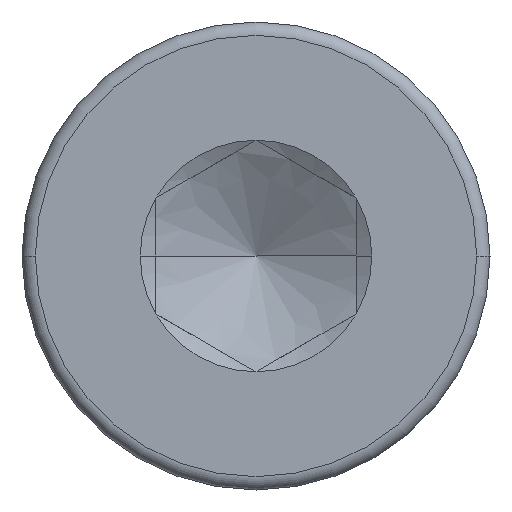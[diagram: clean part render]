
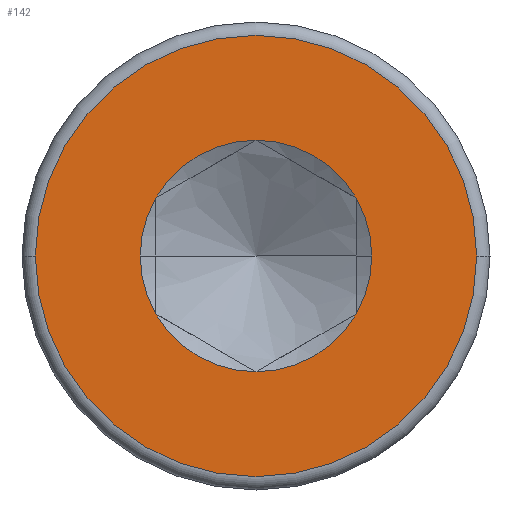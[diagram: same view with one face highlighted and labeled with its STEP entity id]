
A CAD part, left-side view. The second image highlights one B-rep face of the part: STEP entity #142.
In plain terms, the highlighted planar face has unit normal (-1, 0, 0).
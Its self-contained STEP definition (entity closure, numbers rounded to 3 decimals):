
#63=FACE_BOUND('',#214,.F.);
#74=PLANE('',#898);
#142=ADVANCED_FACE('',(#63,#177),#74,.T.);
#177=FACE_OUTER_BOUND('',#215,.F.);
#214=EDGE_LOOP('',(#346,#347,#348,#349,#350,#351,#352,#353,#354,#355,#356,
#357,#358,#359,#360,#361));
#215=EDGE_LOOP('',(#362,#363));
#346=ORIENTED_EDGE('',*,*,#702,.T.);
#347=ORIENTED_EDGE('',*,*,#735,.T.);
#348=ORIENTED_EDGE('',*,*,#734,.T.);
#349=ORIENTED_EDGE('',*,*,#701,.T.);
#350=ORIENTED_EDGE('',*,*,#700,.T.);
#351=ORIENTED_EDGE('',*,*,#733,.T.);
#352=ORIENTED_EDGE('',*,*,#740,.T.);
#353=ORIENTED_EDGE('',*,*,#688,.T.);
#354=ORIENTED_EDGE('',*,*,#699,.T.);
#355=ORIENTED_EDGE('',*,*,#739,.T.);
#356=ORIENTED_EDGE('',*,*,#738,.T.);
#357=ORIENTED_EDGE('',*,*,#698,.T.);
#358=ORIENTED_EDGE('',*,*,#697,.T.);
#359=ORIENTED_EDGE('',*,*,#737,.T.);
#360=ORIENTED_EDGE('',*,*,#736,.T.);
#361=ORIENTED_EDGE('',*,*,#687,.T.);
#362=ORIENTED_EDGE('',*,*,#748,.F.);
#363=ORIENTED_EDGE('',*,*,#741,.F.);
#619=LINE('',#1145,#649);
#620=LINE('',#1146,#650);
#621=LINE('',#1195,#651);
#622=LINE('',#1196,#652);
#623=LINE('',#1197,#653);
#624=LINE('',#1198,#654);
#625=LINE('',#1199,#655);
#626=LINE('',#1200,#656);
#649=VECTOR('',#943,0.002);
#650=VECTOR('',#944,0.002);
#651=VECTOR('',#945,0.002);
#652=VECTOR('',#946,0.002);
#653=VECTOR('',#947,0.002);
#654=VECTOR('',#948,0.002);
#655=VECTOR('',#949,0.002);
#656=VECTOR('',#950,0.002);
#687=EDGE_CURVE('',#831,#830,#619,.T.);
#688=EDGE_CURVE('',#829,#828,#620,.T.);
#697=EDGE_CURVE('',#817,#826,#621,.T.);
#698=EDGE_CURVE('',#818,#817,#622,.T.);
#699=EDGE_CURVE('',#828,#819,#623,.T.);
#700=EDGE_CURVE('',#816,#821,#624,.T.);
#701=EDGE_CURVE('',#823,#816,#625,.T.);
#702=EDGE_CURVE('',#830,#824,#626,.T.);
#733=EDGE_CURVE('',#821,#806,#767,.T.);
#734=EDGE_CURVE('',#825,#823,#768,.T.);
#735=EDGE_CURVE('',#824,#825,#769,.T.);
#736=EDGE_CURVE('',#807,#831,#770,.T.);
#737=EDGE_CURVE('',#826,#807,#771,.T.);
#738=EDGE_CURVE('',#820,#818,#772,.T.);
#739=EDGE_CURVE('',#819,#820,#773,.T.);
#740=EDGE_CURVE('',#806,#829,#774,.T.);
#741=EDGE_CURVE('',#796,#795,#775,.T.);
#748=EDGE_CURVE('',#795,#796,#780,.T.);
#767=CIRCLE('',#858,1.731);
#768=CIRCLE('',#859,1.731);
#769=CIRCLE('',#860,1.731);
#770=CIRCLE('',#861,1.731);
#771=CIRCLE('',#862,1.731);
#772=CIRCLE('',#863,1.731);
#773=CIRCLE('',#864,1.731);
#774=CIRCLE('',#865,1.731);
#775=CIRCLE('',#866,3.3);
#780=CIRCLE('',#871,3.3);
#795=VERTEX_POINT('',#1108);
#796=VERTEX_POINT('',#1109);
#806=VERTEX_POINT('',#1119);
#807=VERTEX_POINT('',#1120);
#816=VERTEX_POINT('',#1129);
#817=VERTEX_POINT('',#1130);
#818=VERTEX_POINT('',#1131);
#819=VERTEX_POINT('',#1132);
#820=VERTEX_POINT('',#1133);
#821=VERTEX_POINT('',#1134);
#823=VERTEX_POINT('',#1136);
#824=VERTEX_POINT('',#1137);
#825=VERTEX_POINT('',#1138);
#826=VERTEX_POINT('',#1139);
#828=VERTEX_POINT('',#1141);
#829=VERTEX_POINT('',#1142);
#830=VERTEX_POINT('',#1143);
#831=VERTEX_POINT('',#1144);
#858=AXIS2_PLACEMENT_3D('',#1271,#981,#982);
#859=AXIS2_PLACEMENT_3D('',#1272,#983,#984);
#860=AXIS2_PLACEMENT_3D('',#1273,#985,#986);
#861=AXIS2_PLACEMENT_3D('',#1274,#987,#988);
#862=AXIS2_PLACEMENT_3D('',#1275,#989,#990);
#863=AXIS2_PLACEMENT_3D('',#1276,#991,#992);
#864=AXIS2_PLACEMENT_3D('',#1277,#993,#994);
#865=AXIS2_PLACEMENT_3D('',#1278,#995,#996);
#866=AXIS2_PLACEMENT_3D('',#1279,#997,#998);
#871=AXIS2_PLACEMENT_3D('',#1286,#1009,#1010);
#898=AXIS2_PLACEMENT_3D('',#1313,#1063,#1064);
#943=DIRECTION('',(0.,0.,1.));
#944=DIRECTION('',(0.,0.,-1.));
#945=DIRECTION('',(0.,0.,1.));
#946=DIRECTION('',(0.,-0.866,0.5));
#947=DIRECTION('',(0.,-0.866,-0.5));
#948=DIRECTION('',(0.,0.,-1.));
#949=DIRECTION('',(0.,0.866,-0.5));
#950=DIRECTION('',(0.,0.866,0.5));
#981=DIRECTION('',(-1.,0.,0.));
#982=DIRECTION('',(0.,0.867,0.499));
#983=DIRECTION('',(-1.,0.,0.));
#984=DIRECTION('',(0.,0.,1.));
#985=DIRECTION('',(-1.,0.,0.));
#986=DIRECTION('',(0.,-0.866,0.5));
#987=DIRECTION('',(-1.,0.,0.));
#988=DIRECTION('',(0.,-1.,0.));
#989=DIRECTION('',(-1.,0.,0.));
#990=DIRECTION('',(0.,-0.867,-0.499));
#991=DIRECTION('',(-1.,0.,0.));
#992=DIRECTION('',(0.,0.,-1.));
#993=DIRECTION('',(-1.,0.,0.));
#994=DIRECTION('',(0.,0.866,-0.5));
#995=DIRECTION('',(-1.,0.,0.));
#996=DIRECTION('',(0.,1.,0.));
#997=DIRECTION('',(-1.,0.,0.));
#998=DIRECTION('',(0.,1.,0.));
#1009=DIRECTION('',(-1.,0.,0.));
#1010=DIRECTION('',(0.,-1.,0.));
#1063=DIRECTION('',(-1.,0.,0.));
#1064=DIRECTION('',(0.,0.,1.));
#1108=CARTESIAN_POINT('',(-101.73,-93.5,81.27));
#1109=CARTESIAN_POINT('',(-101.73,-86.9,81.27));
#1119=CARTESIAN_POINT('',(-101.73,-88.469,81.27));
#1120=CARTESIAN_POINT('',(-101.73,-91.931,81.27));
#1129=CARTESIAN_POINT('',(-101.73,-88.7,82.136));
#1130=CARTESIAN_POINT('',(-101.73,-91.7,80.405));
#1131=CARTESIAN_POINT('',(-101.73,-91.699,80.404));
#1132=CARTESIAN_POINT('',(-101.73,-88.701,80.404));
#1133=CARTESIAN_POINT('',(-101.73,-90.2,79.539));
#1134=CARTESIAN_POINT('',(-101.73,-88.7,82.134));
#1136=CARTESIAN_POINT('',(-101.73,-88.701,82.137));
#1137=CARTESIAN_POINT('',(-101.73,-91.699,82.137));
#1138=CARTESIAN_POINT('',(-101.73,-90.2,83.001));
#1139=CARTESIAN_POINT('',(-101.73,-91.7,80.406));
#1141=CARTESIAN_POINT('',(-101.73,-88.7,80.405));
#1142=CARTESIAN_POINT('',(-101.73,-88.7,80.406));
#1143=CARTESIAN_POINT('',(-101.73,-91.7,82.136));
#1144=CARTESIAN_POINT('',(-101.73,-91.7,82.134));
#1145=CARTESIAN_POINT('',(-101.73,-91.7,82.134));
#1146=CARTESIAN_POINT('',(-101.73,-88.7,80.406));
#1195=CARTESIAN_POINT('',(-101.73,-91.7,80.405));
#1196=CARTESIAN_POINT('',(-101.73,-91.699,80.404));
#1197=CARTESIAN_POINT('',(-101.73,-88.7,80.405));
#1198=CARTESIAN_POINT('',(-101.73,-88.7,82.136));
#1199=CARTESIAN_POINT('',(-101.73,-88.701,82.137));
#1200=CARTESIAN_POINT('',(-101.73,-91.7,82.136));
#1271=CARTESIAN_POINT('',(-101.73,-90.2,81.27));
#1272=CARTESIAN_POINT('',(-101.73,-90.2,81.27));
#1273=CARTESIAN_POINT('',(-101.73,-90.2,81.27));
#1274=CARTESIAN_POINT('',(-101.73,-90.2,81.27));
#1275=CARTESIAN_POINT('',(-101.73,-90.2,81.27));
#1276=CARTESIAN_POINT('',(-101.73,-90.2,81.27));
#1277=CARTESIAN_POINT('',(-101.73,-90.2,81.27));
#1278=CARTESIAN_POINT('',(-101.73,-90.2,81.27));
#1279=CARTESIAN_POINT('',(-101.73,-90.2,81.27));
#1286=CARTESIAN_POINT('',(-101.73,-90.2,81.27));
#1313=CARTESIAN_POINT('',(-101.73,-93.566,77.904));
